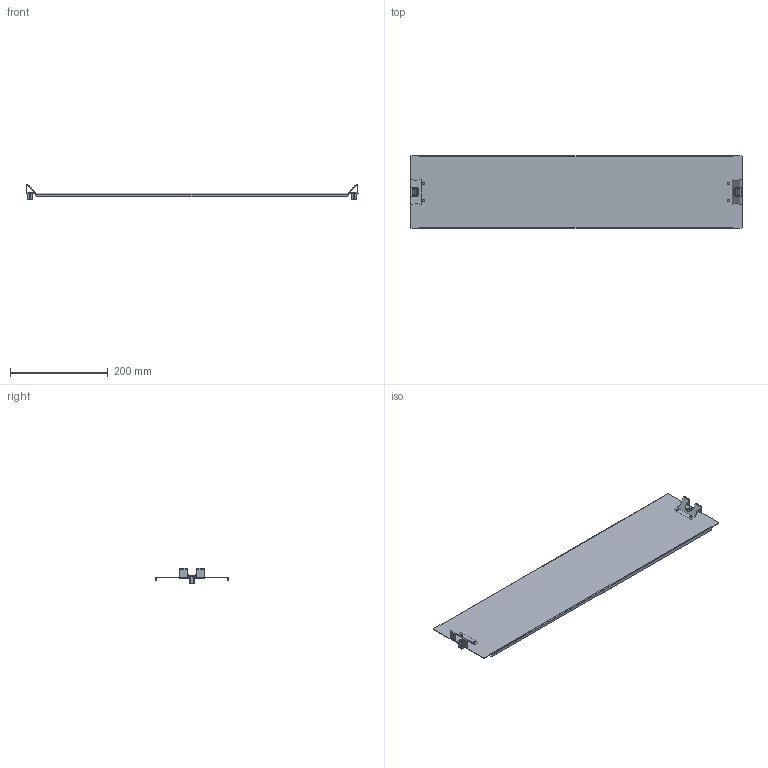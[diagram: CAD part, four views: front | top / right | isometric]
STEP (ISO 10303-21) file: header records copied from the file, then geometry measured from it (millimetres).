
FILE_DESCRIPTION(('CAx-IF Rec.Pracs.---Model Styling and Organization---1.2---2011-12-15','CAx-IF Rec.Pracs.---Geometric and Assembly Validation Properties---4.1---2014-06-16','CAx-IF Rec.Pracs.---PMI Polyline Presentation---2.0---2013-05-24'),'2;1');
FILE_NAME('R5FPI815.stp','2021-05-06T04:07:10+03:00',(''),(''),'STEP Interface 4.4 by CT CoreTechnologie','3D_Evolution4.4 by CT CoreTechnologie','');
FILE_SCHEMA(('AUTOMOTIVE_DESIGN { 1 0 10303 214 1 1 1 1 }'));
Length unit declared in the file: millimetre
Products named in the file (9): R5FPI815; 294-9118.00-00050(1); RB.0376.00.00.0_-00; 294-9118.00-00050(2); 294-9118.00-00050(3); RB.0516.00.00.1 ÑÁ_-03; RB.0392.00.02.0_ª«¨­ç(1); RB.0392.00.02.0_ª«¨­ç(2); RB.0516.00.01.1_-03
Assembly tree (10 placements, depth 3):
  R5FPI815
    294-9118.00-00050(1)
      RB.0376.00.00.0_-00
      294-9118.00-00050(2)
    294-9118.00-00050(3)
      RB.0376.00.00.0_-00
      294-9118.00-00050(2)
    RB.0516.00.00.1 ÑÁ_-03
      RB.0392.00.02.0_ª«¨­ç(1)
      RB.0392.00.02.0_ª«¨­ç(2)
      RB.0516.00.01.1_-03
Bounding box: 681 x 148 x 31.03 mm (x, y, z)
Surface area: 229505.5 mm2 (no closed solid volume)
Topology: 0 solids, 15 shells, 280 faces, 716 edges, 464 vertices
Faces by surface type: plane 218, cylinder 46, bspline 16
Entity records: 7186 total; most frequent: CARTESIAN_POINT 1360, ORIENTED_EDGE 1124, DIRECTION 1098, EDGE_CURVE 562, VECTOR 462, LINE 462, VERTEX_POINT 368, AXIS2_PLACEMENT_3D 318
